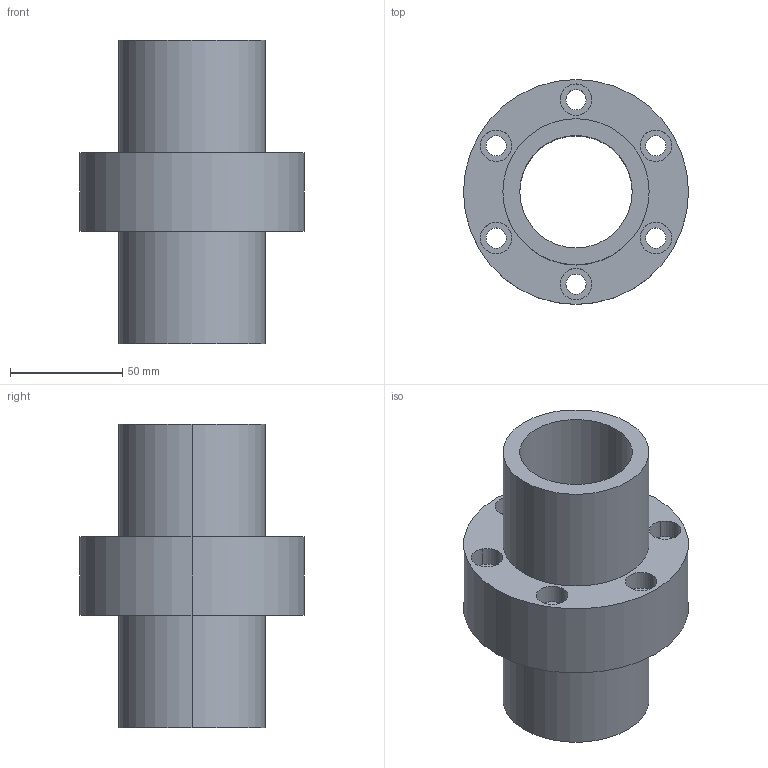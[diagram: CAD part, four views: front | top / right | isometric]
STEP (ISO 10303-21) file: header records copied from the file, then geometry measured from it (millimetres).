
FILE_DESCRIPTION((''),'2;1');
FILE_NAME('50-5T6','2008-04-07T',('yanyu'),(''),'PRO/ENGINEER BY PARAMETRIC TECHNOLOGY CORPORATION, 2005070','PRO/ENGINEER BY PARAMETRIC TECHNOLOGY CORPORATION, 2005070','');
FILE_SCHEMA(('CONFIG_CONTROL_DESIGN'));
Length unit declared in the file: millimetre
Products named in the file (1): 50-5T6
Bounding box: 100 x 100 x 135 mm (x, y, z)
Volume: 323682.2 mm3; surface area: 70378 mm2
Topology: 1 solids, 1 shells, 42 faces, 100 edges, 68 vertices
Faces by surface type: cylinder 32, plane 10
Entity records: 1330 total; most frequent: DIRECTION 252, CARTESIAN_POINT 210, ORIENTED_EDGE 200, AXIS2_PLACEMENT_3D 110, EDGE_CURVE 100, VERTEX_POINT 68, CIRCLE 68, EDGE_LOOP 64
